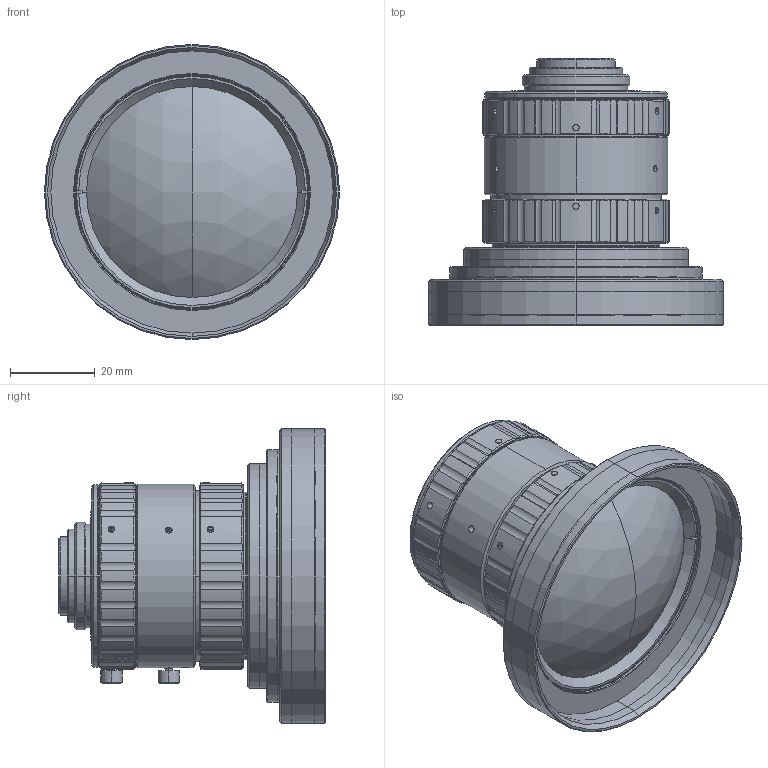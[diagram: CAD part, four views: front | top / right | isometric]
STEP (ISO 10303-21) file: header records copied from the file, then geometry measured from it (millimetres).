
FILE_DESCRIPTION (( 'STEP AP214' ), '1' );
FILE_NAME ('3D-drawing of V0826-MPZ_190821.STEP', '2019-08-21T07:40:18', ( '' ), ( '' ), 'SwSTEP 2.0', 'SolidWorks 2013', '' );
FILE_SCHEMA (( 'AUTOMOTIVE_DESIGN' ));
Length unit declared in the file: millimetre
Products named in the file (3): V0826-MPZ_Mechnical limit_190821_1; V0826-MPZ_Infinity_190821_1; 3D-drawing of V0826-MPZ_190821
Assembly tree (2 placements, depth 2):
  3D-drawing of V0826-MPZ_190821
    V0826-MPZ_Infinity_190821_1
    V0826-MPZ_Mechnical limit_190821_1
Bounding box: 69.5 x 62.87 x 69.5 mm (x, y, z)
Volume: 169382.8 mm3; surface area: 48144.6 mm2
Topology: 2 solids, 11 shells, 1086 faces, 2638 edges, 1658 vertices
Faces by surface type: cylinder 484, plane 298, cone 288, torus 12, sphere 4
Entity records: 38206 total; most frequent: CARTESIAN_POINT 9141, DIRECTION 5308, ORIENTED_EDGE 5268, EDGE_CURVE 2634, AXIS2_PLACEMENT_3D 2081, VERTEX_POINT 1658, EDGE_LOOP 1204, LINE 1146
